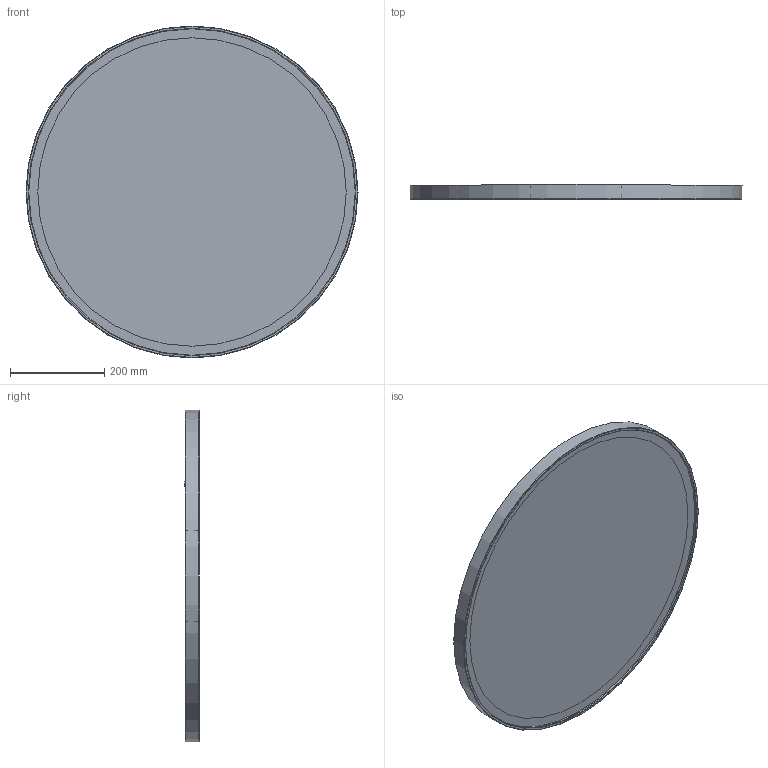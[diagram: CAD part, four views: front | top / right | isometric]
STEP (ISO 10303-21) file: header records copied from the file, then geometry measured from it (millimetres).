
FILE_DESCRIPTION(/* description */ ('Unknown'),/* implementation_level */ '2;1');
FILE_NAME(/* name */ 'Soft LUX',/* time_stamp */ '2026-04-08T14:28:48+02:00',/* author */ ('Mariusz Kirko'),/* organization */ ('Kraft'),/* preprocessor_version */ 'ST-DEVELOPER v19.4',/* originating_system */ 'Solid Edge',/* authorisation */ 'Unknown');
FILE_SCHEMA (('AUTOMOTIVE_DESIGN {1 0 10303 214 3 1 1}'));
Length unit declared in the file: millimetre
Products named in the file (7): Z這瞠nie plus zawieszka; Ramka; Piaskowanie; Lustro; Ramka HIPS; Zakrywka; 350x21
Assembly tree (6 placements, depth 2):
  Z這瞠nie plus zawieszka
    Ramka
    Piaskowanie
    Lustro
    Ramka HIPS
    Zakrywka
    350x21
Bounding box: 706 x 31.5 x 706 mm (x, y, z)
Volume: 2147368.4 mm3; surface area: 1375676.8 mm2
Topology: 6 solids, 6 shells, 97 faces, 252 edges, 168 vertices
Faces by surface type: plane 53, cylinder 42, torus 2
Full cylindrical faces by diameter (mm): 550 x1, 566 x1, 570 x1, 656 x2, 694 x1, 700 x3, 706 x1
Entity records: 3173 total; most frequent: DIRECTION 532, CARTESIAN_POINT 508, ORIENTED_EDGE 476, EDGE_CURVE 238, AXIS2_PLACEMENT_3D 190, VERTEX_POINT 166, LINE 152, VECTOR 152
